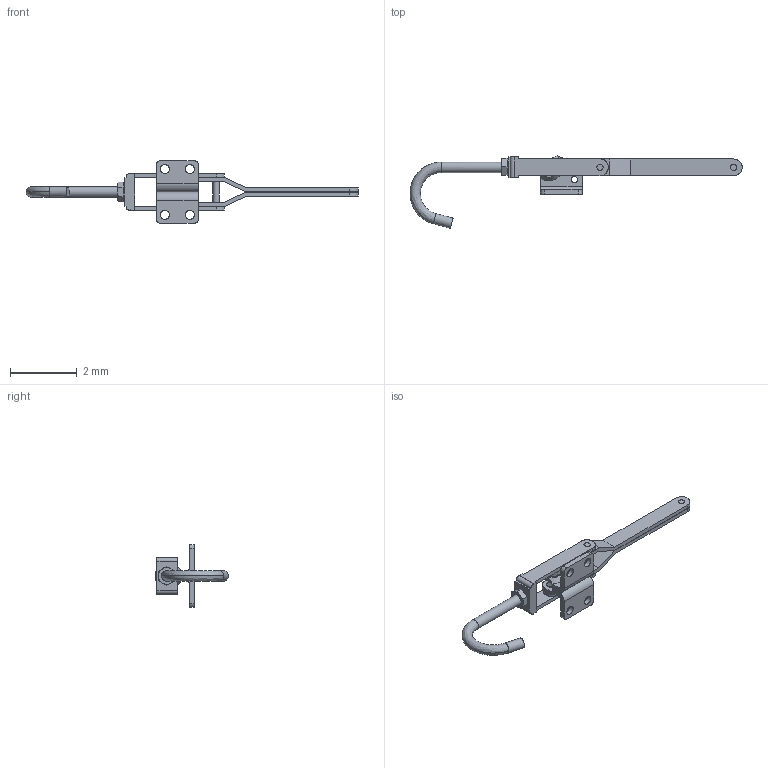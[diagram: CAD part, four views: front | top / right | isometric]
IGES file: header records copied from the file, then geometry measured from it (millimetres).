
Start section:  Autodesk DirectConnect version 7.0.27.0 ---- IGES version 5.3
Global section: file name: C:\Users\Nick\Desktop\PCH-200\3D\PCH-200.igs; native system: Autodesk DirectConnect 7.0.27.0; preprocessor: 7.0.27.0; author: Nick; organization: Unknown; date: 20150728.172109; units: millimetre
Bounding box: 9.94 x 2.17 x 1.88 mm (x, y, z)
Surface area: 41 mm2 (no closed solid volume)
Topology: 0 solids, 0 shells, 142 faces, 990 edges, 980 vertices
Faces by surface type: bspline 142
